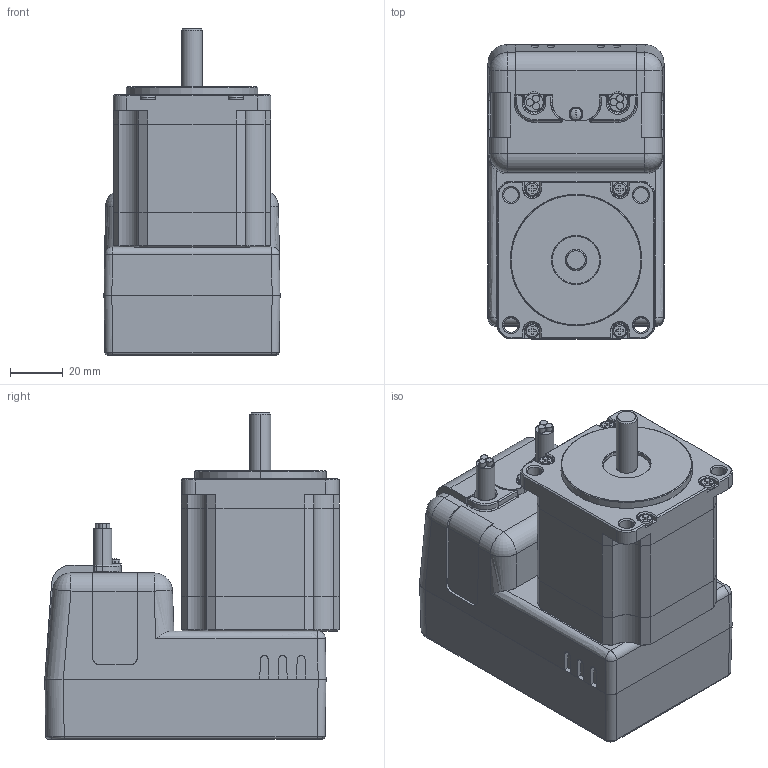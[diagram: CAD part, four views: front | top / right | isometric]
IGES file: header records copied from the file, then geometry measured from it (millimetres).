
Start section: SolidWorks IGES file using analytic representation for surfaces
Global section: file name: Z:\CAD Files\Motors\CoolmuscleMotors\CM2 Series CAD\CM2-60A20C\CM2-C-60A20C.IGS; native system: SolidWorks 2015; preprocessor: SolidWorks 2015; author: RENDER; date: 170407.162611; units: millimetre
Bounding box: 67 x 112 x 124.1 mm (x, y, z)
Surface area: 87279.1 mm2 (no closed solid volume)
Topology: 0 solids, 0 shells, 534 faces, 5578 edges, 5563 vertices
Faces by surface type: bspline 279, revolution 255
